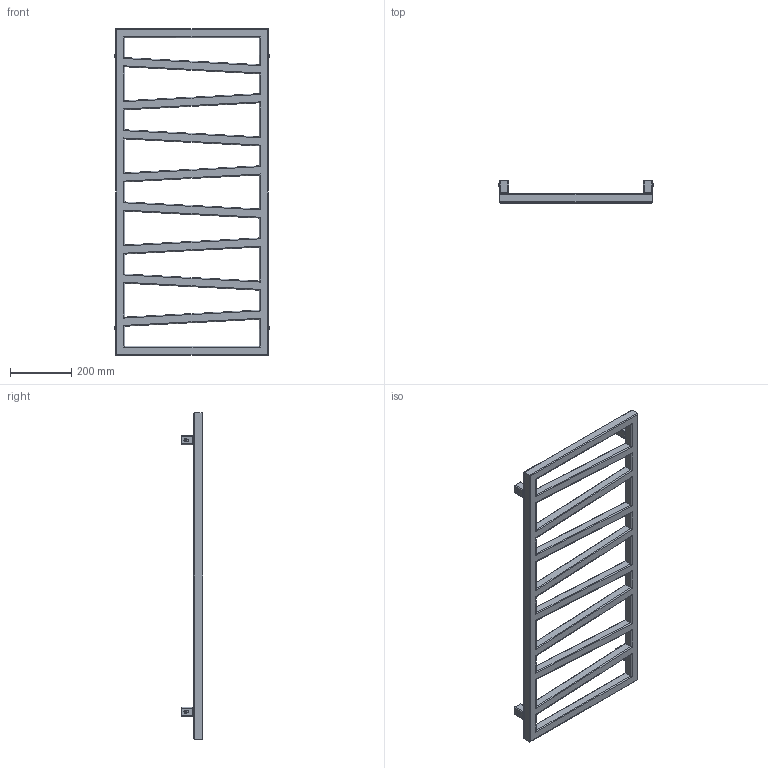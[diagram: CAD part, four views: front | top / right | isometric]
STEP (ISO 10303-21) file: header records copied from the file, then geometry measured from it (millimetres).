
FILE_DESCRIPTION((''),'2;1');
FILE_NAME('Z:\R\G\P\RGP106 - Grzejnik Zigzag\Work\Inventor\Marketing\Katalog 2012\Modele AutoCAD\ZIG-1070-500-SX.stp','2012-07-12T15:35:08',('KurKa'),(''),'Autodesk Inventor 2012','Autodesk Inventor 2012','');
FILE_SCHEMA(('AUTOMOTIVE_DESIGN { 1 0 10303 214 1 1 1 1 }'));
Length unit declared in the file: millimetre
Products named in the file (3): ZIG-1070-500-SX; MMT42_marketing
Assembly tree (5 placements, depth 2):
  ZIG-1070-500-SX
    ZIG-1070-500-SX
    MMT42_marketing  x4
Bounding box: 506 x 72 x 1070 mm (x, y, z)
Volume: 5970096.4 mm3; surface area: 769112.2 mm2
Topology: 5 solids, 5 shells, 311 faces, 731 edges, 445 vertices
Faces by surface type: plane 145, cylinder 131, cone 24, torus 11
Full cylindrical faces by diameter (mm): 4.509 x4, 11.445 x1, 12 x4, 18.631 x2
Entity records: 4977 total; most frequent: DIRECTION 882, CARTESIAN_POINT 848, ORIENTED_EDGE 784, EDGE_CURVE 392, AXIS2_PLACEMENT_3D 310, VECTOR 262, LINE 262, VERTEX_POINT 236
